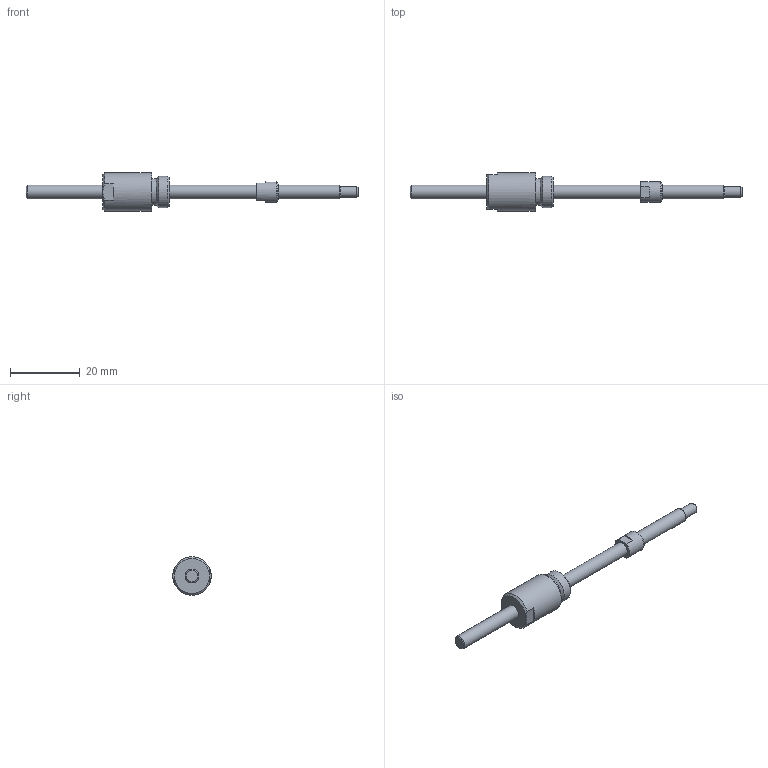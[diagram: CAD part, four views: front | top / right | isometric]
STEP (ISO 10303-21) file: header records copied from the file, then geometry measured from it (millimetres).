
FILE_DESCRIPTION(/* description */ ('STEP AP214'),/* implementation_level */ '2;1');
FILE_NAME(/* name */ 'NSG0401-063R095C5A0X(22)',/* time_stamp */ '2026-08-20T15:45:05+02:00',/* author */ ('License CC BY-ND 4.0'),/* organization */ ('CADENAS'),/* preprocessor_version */ 'ST-DEVELOPER v20',/* originating_system */ 'PARTsolutions',/* authorisation */ ' ');
FILE_SCHEMA (('AUTOMOTIVE_DESIGN {1 0 10303 214 3 1 1}'));
Length unit declared in the file: millimetre
Products named in the file (3): NSG0401-063R095C5A0X(22); NSG0401-63R95C3A_shaft; NSG0401_nut
Assembly tree (2 placements, depth 2):
  NSG0401-063R095C5A0X(22)
    NSG0401-63R95C3A_shaft
    NSG0401_nut
Bounding box: 95 x 11 x 11 mm (x, y, z)
Volume: 2618.8 mm3; surface area: 2286.3 mm2
Topology: 2 solids, 2 shells, 34 faces, 67 edges, 41 vertices
Faces by surface type: plane 16, cone 9, cylinder 8, torus 1
Full cylindrical faces by diameter (mm): 3 x1, 4 x3, 6 x1, 7.7 x1, 9 x1, 11 x1
Entity records: 859 total; most frequent: DIRECTION 150, CARTESIAN_POINT 137, ORIENTED_EDGE 98, AXIS2_PLACEMENT_3D 68, EDGE_LOOP 56, FACE_BOUND 56, EDGE_CURVE 49, VERTEX_POINT 39
